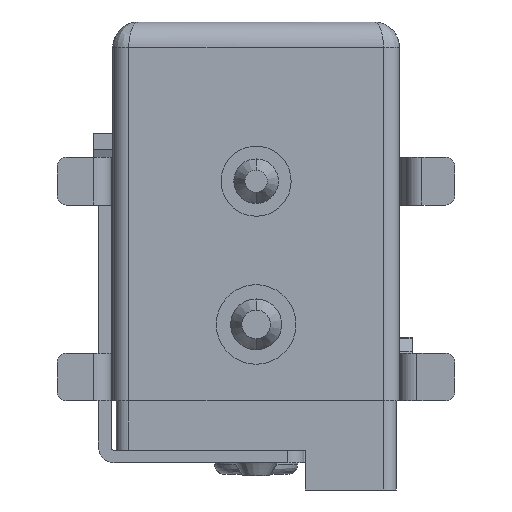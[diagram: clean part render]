
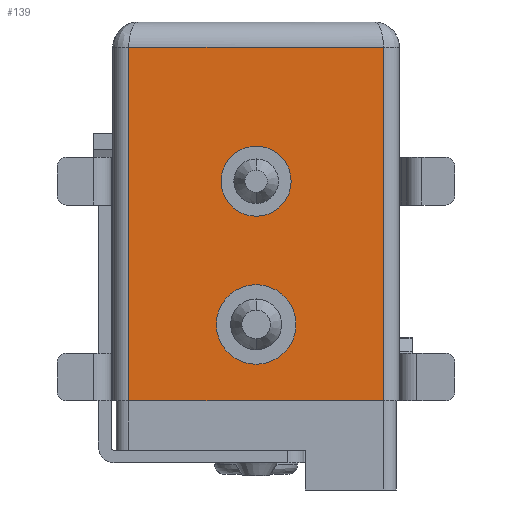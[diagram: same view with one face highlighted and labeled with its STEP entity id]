
A CAD part, front view. The second image highlights one B-rep face of the part: STEP entity #139.
In plain terms, the highlighted planar face has unit normal (0, -1, 0).
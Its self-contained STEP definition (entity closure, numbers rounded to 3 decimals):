
#139=ADVANCED_FACE('NONE',(#473,#474,#475),#476,.T.);
#473=FACE_OUTER_BOUND('',#1135,.T.);
#474=FACE_BOUND('',#1136,.T.);
#475=FACE_BOUND('',#1137,.T.);
#476=PLANE('',#1138);
#1135=EDGE_LOOP('',(#2797,#2798,#2799,#2800));
#1136=EDGE_LOOP('',(#2801,#2802));
#1137=EDGE_LOOP('',(#2803,#2804));
#1138=AXIS2_PLACEMENT_3D('',#2805,#2806,#2807);
#2797=ORIENTED_EDGE('',*,*,#5190,.T.);
#2798=ORIENTED_EDGE('',*,*,#5191,.T.);
#2799=ORIENTED_EDGE('',*,*,#5192,.T.);
#2800=ORIENTED_EDGE('',*,*,#5193,.T.);
#2801=ORIENTED_EDGE('',*,*,#5189,.F.);
#2802=ORIENTED_EDGE('',*,*,#5150,.F.);
#2803=ORIENTED_EDGE('',*,*,#5154,.T.);
#2804=ORIENTED_EDGE('',*,*,#5194,.T.);
#2805=CARTESIAN_POINT('',(-4.0,-6.5,-11.9));
#2806=DIRECTION('',(0.0,-1.0,0.0));
#2807=DIRECTION('',(0.0,0.0,-1.0));
#5150=EDGE_CURVE('NONE',#5944,#5946,#5947,.T.);
#5154=EDGE_CURVE('NONE',#5954,#5952,#5955,.T.);
#5189=EDGE_CURVE('NONE',#5946,#5944,#6020,.T.);
#5190=EDGE_CURVE('NONE',#6021,#6022,#6023,.T.);
#5191=EDGE_CURVE('NONE',#6022,#6024,#6025,.T.);
#5192=EDGE_CURVE('NONE',#6024,#6026,#6027,.T.);
#5193=EDGE_CURVE('NONE',#6026,#6021,#6028,.T.);
#5194=EDGE_CURVE('NONE',#5952,#5954,#6029,.T.);
#5944=VERTEX_POINT('NONE',#7259);
#5946=VERTEX_POINT('NONE',#7262);
#5947=CIRCLE('',#7263,1.25);
#5952=VERTEX_POINT('NONE',#7269);
#5954=VERTEX_POINT('NONE',#7272);
#5955=CIRCLE('',#7273,1.1);
#6020=CIRCLE('',#7355,1.25);
#6021=VERTEX_POINT('NONE',#7356);
#6022=VERTEX_POINT('NONE',#7357);
#6023=LINE('',#7358,#7359);
#6024=VERTEX_POINT('NONE',#7360);
#6025=LINE('',#7361,#7362);
#6026=VERTEX_POINT('NONE',#7363);
#6027=LINE('',#7364,#7365);
#6028=LINE('',#7366,#7367);
#6029=CIRCLE('',#7368,1.1);
#7259=CARTESIAN_POINT('',(0.,-6.5,-8.25));
#7262=CARTESIAN_POINT('',(0.0,-6.5,-10.75));
#7263=AXIS2_PLACEMENT_3D('',#10443,#10444,#10445);
#7269=CARTESIAN_POINT('',(0.,-6.5,-3.9));
#7272=CARTESIAN_POINT('',(0.0,-6.5,-6.1));
#7273=AXIS2_PLACEMENT_3D('',#10451,#10452,#10453);
#7355=AXIS2_PLACEMENT_3D('',#10522,#10523,#10524);
#7356=CARTESIAN_POINT('',(4.0,-6.5,-11.9));
#7357=CARTESIAN_POINT('',(4.,-6.5,-0.8));
#7358=CARTESIAN_POINT('',(4.0,-6.5,-6.35));
#7359=VECTOR('',#10525,1000.0);
#7360=CARTESIAN_POINT('',(-4.,-6.5,-0.8));
#7361=CARTESIAN_POINT('',(0.0,-6.5,-0.8));
#7362=VECTOR('',#10526,1000.0);
#7363=CARTESIAN_POINT('',(-4.0,-6.5,-11.9));
#7364=CARTESIAN_POINT('',(-4.0,-6.5,-6.35));
#7365=VECTOR('',#10527,1000.0);
#7366=CARTESIAN_POINT('',(0.0,-6.5,-11.9));
#7367=VECTOR('',#10528,1000.0);
#7368=AXIS2_PLACEMENT_3D('',#10529,#10530,#10531);
#10443=CARTESIAN_POINT('',(0.0,-6.5,-9.5));
#10444=DIRECTION('',(0.0,-1.0,0.0));
#10445=DIRECTION('',(0.0,0.0,-1.0));
#10451=CARTESIAN_POINT('',(0.0,-6.5,-5.0));
#10452=DIRECTION('',(0.0,1.0,0.0));
#10453=DIRECTION('',(0.0,0.0,-1.0));
#10522=CARTESIAN_POINT('',(0.0,-6.5,-9.5));
#10523=DIRECTION('',(0.0,-1.0,0.0));
#10524=DIRECTION('',(0.0,0.0,-1.0));
#10525=DIRECTION('',(0.0,0.0,1.0));
#10526=DIRECTION('',(-1.0,-0.0,-0.0));
#10527=DIRECTION('',(-0.0,-0.0,-1.0));
#10528=DIRECTION('',(1.0,0.0,0.0));
#10529=CARTESIAN_POINT('',(0.0,-6.5,-5.0));
#10530=DIRECTION('',(0.0,1.0,0.0));
#10531=DIRECTION('',(0.0,0.0,-1.0));
